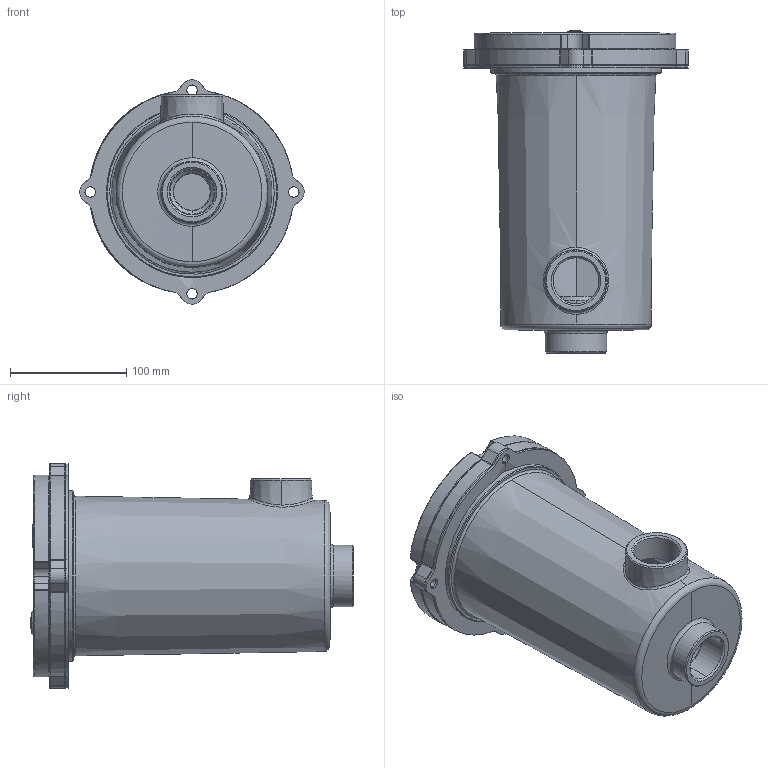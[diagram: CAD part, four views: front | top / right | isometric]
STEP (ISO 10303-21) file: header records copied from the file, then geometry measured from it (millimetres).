
FILE_DESCRIPTION(('FreeCAD Model'),'2;1');
FILE_NAME('Z:/RP Tech/Disegni/Archivio Disegni/18-HOUSING/SFR180.step', '2020-11-27T13:46:28',('Passoni C.'),('RP Tech s.r.l.'), 'Open CASCADE STEP processor 7.3','FreeCAD','Unknown');
FILE_SCHEMA(('AUTOMOTIVE_DESIGN { 1 0 10303 214 1 1 1 1 }'));
Length unit declared in the file: millimetre
Products named in the file (3): Fusion; Fillet002; Fusion001
Bounding box: 192.98 x 277 x 192.98 mm (x, y, z)
Volume: 235859.8 mm3; surface area: 352843 mm2
Topology: 9 solids, 10 shells, 1227 faces, 3067 edges, 1748 vertices
Faces by surface type: bspline 519, plane 404, cylinder 175, cone 120, torus 9
Full cylindrical faces by diameter (mm): 6 x6, 9 x4, 9.85 x1, 10 x6, 39.5 x1, 53 x1, 147 x1
Entity records: 220751 total; most frequent: CARTESIAN_POINT 162888, ORIENTED_EDGE 5830, PCURVE 5830, DEFINITIONAL_REPRESENTATION 5830, DIRECTION 5719, B_SPLINE_CURVE_WITH_KNOTS 4620, LINE 3641, VECTOR 3641
